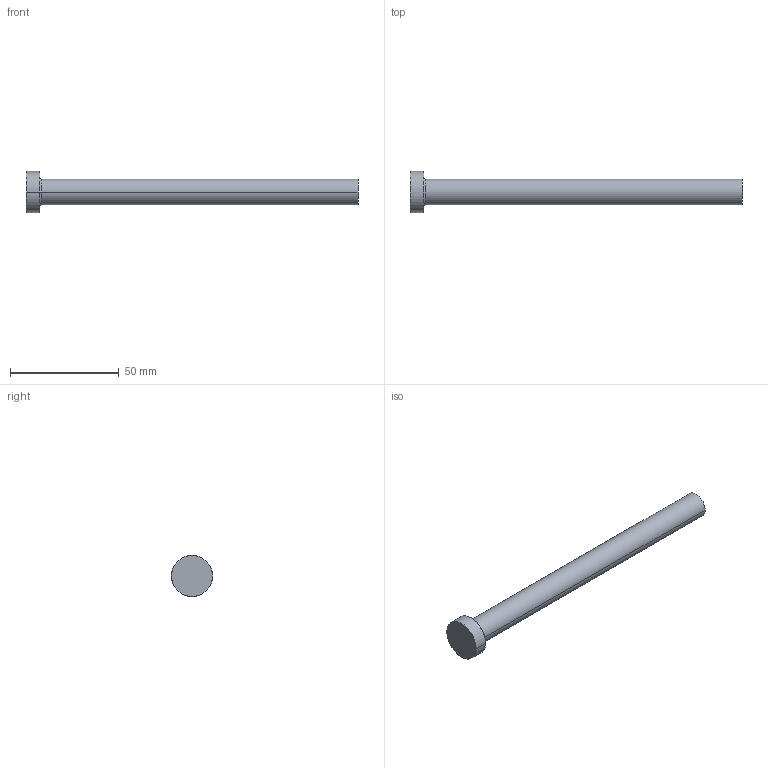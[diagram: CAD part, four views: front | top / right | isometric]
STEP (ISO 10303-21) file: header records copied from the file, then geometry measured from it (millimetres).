
FILE_DESCRIPTION (( 'STEP AP214' ), '1' );
FILE_NAME ('P31-6.STEP', '2020-03-12T10:35:38', ( '' ), ( '' ), 'SwSTEP 2.0', 'SolidWorks 2018', '' );
FILE_SCHEMA (( 'AUTOMOTIVE_DESIGN' ));
Length unit declared in the file: inch
Products named in the file (1): P31-6
Bounding box: 152.4 x 19.05 x 19.05 mm (x, y, z)
Volume: 18054 mm3; surface area: 6390.4 mm2
Topology: 1 solids, 1 shells, 13 faces, 24 edges, 14 vertices
Faces by surface type: cone 4, cylinder 4, plane 3, torus 2
Entity records: 366 total; most frequent: DIRECTION 68, CARTESIAN_POINT 52, ORIENTED_EDGE 48, AXIS2_PLACEMENT_3D 30, EDGE_CURVE 24, CIRCLE 16, VERTEX_POINT 14, EDGE_LOOP 14
